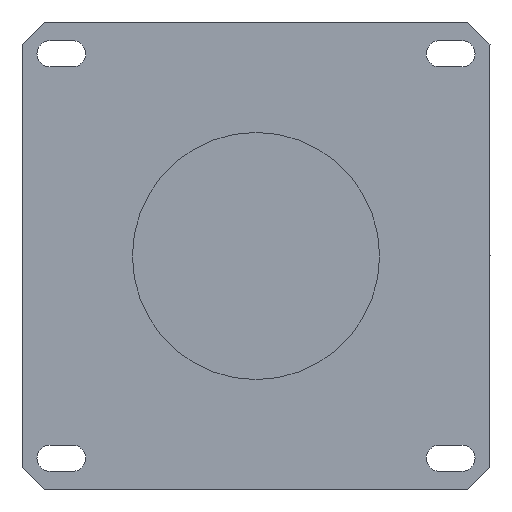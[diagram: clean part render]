
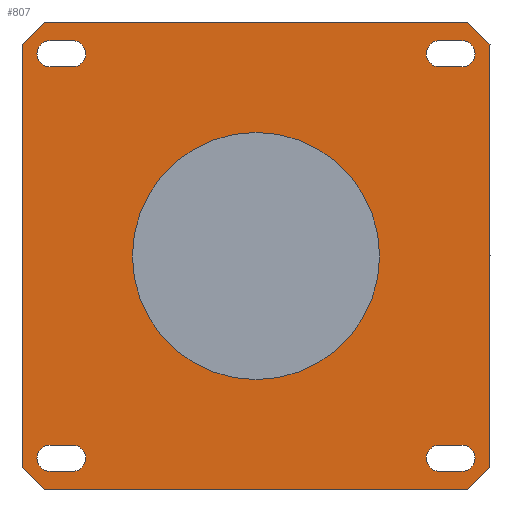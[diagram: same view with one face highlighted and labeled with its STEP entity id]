
A CAD part, front view. The second image highlights one B-rep face of the part: STEP entity #807.
In plain terms, the highlighted planar face has unit normal (0, -1, 0).
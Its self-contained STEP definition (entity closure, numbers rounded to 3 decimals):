
#438=FACE_BOUND('',#1325,.T.);
#439=FACE_BOUND('',#1326,.T.);
#440=FACE_BOUND('',#1327,.T.);
#441=FACE_BOUND('',#1328,.T.);
#442=FACE_BOUND('',#1329,.T.);
#443=FACE_BOUND('',#1330,.T.);
#619=CIRCLE('',#3356,33.);
#620=CIRCLE('',#3357,3.5);
#621=CIRCLE('',#3358,3.5);
#622=CIRCLE('',#3359,3.5);
#623=CIRCLE('',#3360,3.5);
#624=CIRCLE('',#3361,3.5);
#625=CIRCLE('',#3362,3.5);
#626=CIRCLE('',#3363,3.5);
#627=CIRCLE('',#3364,3.5);
#807=ADVANCED_FACE('',(#438,#439,#440,#441,#442,#443),#948,.F.);
#948=PLANE('',#3365);
#1325=EDGE_LOOP('',(#1903));
#1326=EDGE_LOOP('',(#1904,#1905,#1906,#1907));
#1327=EDGE_LOOP('',(#1908,#1909,#1910,#1911));
#1328=EDGE_LOOP('',(#1912,#1913,#1914,#1915));
#1329=EDGE_LOOP('',(#1916,#1917,#1918,#1919));
#1330=EDGE_LOOP('',(#1920,#1921,#1922,#1923,#1924,#1925,#1926,#1927));
#1903=ORIENTED_EDGE('',*,*,#2593,.T.);
#1904=ORIENTED_EDGE('',*,*,#2594,.T.);
#1905=ORIENTED_EDGE('',*,*,#2595,.T.);
#1906=ORIENTED_EDGE('',*,*,#2596,.T.);
#1907=ORIENTED_EDGE('',*,*,#2597,.T.);
#1908=ORIENTED_EDGE('',*,*,#2598,.T.);
#1909=ORIENTED_EDGE('',*,*,#2599,.T.);
#1910=ORIENTED_EDGE('',*,*,#2600,.T.);
#1911=ORIENTED_EDGE('',*,*,#2601,.T.);
#1912=ORIENTED_EDGE('',*,*,#2602,.T.);
#1913=ORIENTED_EDGE('',*,*,#2603,.T.);
#1914=ORIENTED_EDGE('',*,*,#2604,.T.);
#1915=ORIENTED_EDGE('',*,*,#2605,.T.);
#1916=ORIENTED_EDGE('',*,*,#2606,.T.);
#1917=ORIENTED_EDGE('',*,*,#2607,.T.);
#1918=ORIENTED_EDGE('',*,*,#2608,.T.);
#1919=ORIENTED_EDGE('',*,*,#2609,.T.);
#1920=ORIENTED_EDGE('',*,*,#2610,.F.);
#1921=ORIENTED_EDGE('',*,*,#2611,.F.);
#1922=ORIENTED_EDGE('',*,*,#2612,.F.);
#1923=ORIENTED_EDGE('',*,*,#2613,.F.);
#1924=ORIENTED_EDGE('',*,*,#2614,.F.);
#1925=ORIENTED_EDGE('',*,*,#2615,.F.);
#1926=ORIENTED_EDGE('',*,*,#2616,.F.);
#1927=ORIENTED_EDGE('',*,*,#2617,.F.);
#2273=VERTEX_POINT('',#4913);
#2274=VERTEX_POINT('',#4915);
#2275=VERTEX_POINT('',#4916);
#2276=VERTEX_POINT('',#4918);
#2277=VERTEX_POINT('',#4920);
#2278=VERTEX_POINT('',#4923);
#2279=VERTEX_POINT('',#4924);
#2280=VERTEX_POINT('',#4926);
#2281=VERTEX_POINT('',#4928);
#2282=VERTEX_POINT('',#4931);
#2283=VERTEX_POINT('',#4932);
#2284=VERTEX_POINT('',#4934);
#2285=VERTEX_POINT('',#4936);
#2286=VERTEX_POINT('',#4939);
#2287=VERTEX_POINT('',#4940);
#2288=VERTEX_POINT('',#4942);
#2289=VERTEX_POINT('',#4944);
#2290=VERTEX_POINT('',#4947);
#2291=VERTEX_POINT('',#4948);
#2292=VERTEX_POINT('',#4950);
#2293=VERTEX_POINT('',#4952);
#2294=VERTEX_POINT('',#4954);
#2295=VERTEX_POINT('',#4956);
#2296=VERTEX_POINT('',#4958);
#2297=VERTEX_POINT('',#4960);
#2593=EDGE_CURVE('',#2273,#2273,#619,.T.);
#2594=EDGE_CURVE('',#2274,#2275,#620,.T.);
#2595=EDGE_CURVE('',#2275,#2276,#2827,.T.);
#2596=EDGE_CURVE('',#2276,#2277,#621,.T.);
#2597=EDGE_CURVE('',#2277,#2274,#2828,.T.);
#2598=EDGE_CURVE('',#2278,#2279,#622,.T.);
#2599=EDGE_CURVE('',#2279,#2280,#2829,.T.);
#2600=EDGE_CURVE('',#2280,#2281,#623,.T.);
#2601=EDGE_CURVE('',#2281,#2278,#2830,.T.);
#2602=EDGE_CURVE('',#2282,#2283,#624,.T.);
#2603=EDGE_CURVE('',#2283,#2284,#2831,.T.);
#2604=EDGE_CURVE('',#2284,#2285,#625,.T.);
#2605=EDGE_CURVE('',#2285,#2282,#2832,.T.);
#2606=EDGE_CURVE('',#2286,#2287,#626,.T.);
#2607=EDGE_CURVE('',#2287,#2288,#2833,.T.);
#2608=EDGE_CURVE('',#2288,#2289,#627,.T.);
#2609=EDGE_CURVE('',#2289,#2286,#2834,.T.);
#2610=EDGE_CURVE('',#2290,#2291,#2835,.T.);
#2611=EDGE_CURVE('',#2292,#2290,#2836,.T.);
#2612=EDGE_CURVE('',#2293,#2292,#2837,.T.);
#2613=EDGE_CURVE('',#2294,#2293,#2838,.T.);
#2614=EDGE_CURVE('',#2295,#2294,#2839,.T.);
#2615=EDGE_CURVE('',#2296,#2295,#2840,.T.);
#2616=EDGE_CURVE('',#2297,#2296,#2841,.T.);
#2617=EDGE_CURVE('',#2291,#2297,#2842,.T.);
#2827=LINE('',#4917,#3035);
#2828=LINE('',#4921,#3036);
#2829=LINE('',#4925,#3037);
#2830=LINE('',#4929,#3038);
#2831=LINE('',#4933,#3039);
#2832=LINE('',#4937,#3040);
#2833=LINE('',#4941,#3041);
#2834=LINE('',#4945,#3042);
#2835=LINE('',#4946,#3043);
#2836=LINE('',#4949,#3044);
#2837=LINE('',#4951,#3045);
#2838=LINE('',#4953,#3046);
#2839=LINE('',#4955,#3047);
#2840=LINE('',#4957,#3048);
#2841=LINE('',#4959,#3049);
#2842=LINE('',#4961,#3050);
#3035=VECTOR('',#4107,1.);
#3036=VECTOR('',#4110,1.);
#3037=VECTOR('',#4113,1.);
#3038=VECTOR('',#4116,1.);
#3039=VECTOR('',#4119,1.);
#3040=VECTOR('',#4122,1.);
#3041=VECTOR('',#4125,1.);
#3042=VECTOR('',#4128,1.);
#3043=VECTOR('',#4129,1.);
#3044=VECTOR('',#4130,1.);
#3045=VECTOR('',#4131,1.);
#3046=VECTOR('',#4132,1.);
#3047=VECTOR('',#4133,1.);
#3048=VECTOR('',#4134,1.);
#3049=VECTOR('',#4135,1.);
#3050=VECTOR('',#4136,1.);
#3356=AXIS2_PLACEMENT_3D('',#4912,#4103,#4104);
#3357=AXIS2_PLACEMENT_3D('',#4914,#4105,#4106);
#3358=AXIS2_PLACEMENT_3D('',#4919,#4108,#4109);
#3359=AXIS2_PLACEMENT_3D('',#4922,#4111,#4112);
#3360=AXIS2_PLACEMENT_3D('',#4927,#4114,#4115);
#3361=AXIS2_PLACEMENT_3D('',#4930,#4117,#4118);
#3362=AXIS2_PLACEMENT_3D('',#4935,#4120,#4121);
#3363=AXIS2_PLACEMENT_3D('',#4938,#4123,#4124);
#3364=AXIS2_PLACEMENT_3D('',#4943,#4126,#4127);
#3365=AXIS2_PLACEMENT_3D('',#4962,#4137,#4138);
#4103=DIRECTION('',(0.,1.,0.));
#4104=DIRECTION('',(1.,0.,0.));
#4105=DIRECTION('',(0.,1.,0.));
#4106=DIRECTION('',(1.,0.,0.));
#4107=DIRECTION('',(1.,0.,0.));
#4108=DIRECTION('',(0.,1.,0.));
#4109=DIRECTION('',(1.,0.,0.));
#4110=DIRECTION('',(-1.,0.,0.));
#4111=DIRECTION('',(0.,1.,0.));
#4112=DIRECTION('',(1.,0.,0.));
#4113=DIRECTION('',(1.,0.,0.));
#4114=DIRECTION('',(0.,1.,0.));
#4115=DIRECTION('',(1.,0.,0.));
#4116=DIRECTION('',(-1.,0.,0.));
#4117=DIRECTION('',(0.,1.,0.));
#4118=DIRECTION('',(1.,0.,0.));
#4119=DIRECTION('',(1.,0.,0.));
#4120=DIRECTION('',(0.,1.,0.));
#4121=DIRECTION('',(1.,0.,0.));
#4122=DIRECTION('',(-1.,0.,0.));
#4123=DIRECTION('',(0.,1.,0.));
#4124=DIRECTION('',(1.,0.,0.));
#4125=DIRECTION('',(1.,0.,0.));
#4126=DIRECTION('',(0.,1.,0.));
#4127=DIRECTION('',(1.,0.,0.));
#4128=DIRECTION('',(-1.,0.,0.));
#4129=DIRECTION('',(0.,0.,1.));
#4130=DIRECTION('',(-0.707,0.,0.707));
#4131=DIRECTION('',(-1.,0.,0.));
#4132=DIRECTION('',(-0.707,0.,-0.707));
#4133=DIRECTION('',(0.,0.,-1.));
#4134=DIRECTION('',(0.707,0.,-0.707));
#4135=DIRECTION('',(1.,0.,0.));
#4136=DIRECTION('',(0.707,0.,0.707));
#4137=DIRECTION('',(0.,1.,0.));
#4138=DIRECTION('',(1.,0.,0.));
#4912=CARTESIAN_POINT('',(2276.039,-4878.292,0.));
#4913=CARTESIAN_POINT('',(2309.039,-4878.292,0.));
#4914=CARTESIAN_POINT('',(2221.039,-4878.292,-54.));
#4915=CARTESIAN_POINT('',(2221.039,-4878.292,-57.5));
#4916=CARTESIAN_POINT('',(2221.039,-4878.292,-50.5));
#4917=CARTESIAN_POINT('',(2221.039,-4878.292,-50.5));
#4918=CARTESIAN_POINT('',(2227.039,-4878.292,-50.5));
#4919=CARTESIAN_POINT('',(2227.039,-4878.292,-54.));
#4920=CARTESIAN_POINT('',(2227.039,-4878.292,-57.5));
#4921=CARTESIAN_POINT('',(2227.039,-4878.292,-57.5));
#4922=CARTESIAN_POINT('',(2221.039,-4878.292,54.));
#4923=CARTESIAN_POINT('',(2221.039,-4878.292,50.5));
#4924=CARTESIAN_POINT('',(2221.039,-4878.292,57.5));
#4925=CARTESIAN_POINT('',(2221.039,-4878.292,57.5));
#4926=CARTESIAN_POINT('',(2227.039,-4878.292,57.5));
#4927=CARTESIAN_POINT('',(2227.039,-4878.292,54.));
#4928=CARTESIAN_POINT('',(2227.039,-4878.292,50.5));
#4929=CARTESIAN_POINT('',(2227.039,-4878.292,50.5));
#4930=CARTESIAN_POINT('',(2325.039,-4878.292,-54.));
#4931=CARTESIAN_POINT('',(2325.039,-4878.292,-57.5));
#4932=CARTESIAN_POINT('',(2325.039,-4878.292,-50.5));
#4933=CARTESIAN_POINT('',(2325.039,-4878.292,-50.5));
#4934=CARTESIAN_POINT('',(2331.039,-4878.292,-50.5));
#4935=CARTESIAN_POINT('',(2331.039,-4878.292,-54.));
#4936=CARTESIAN_POINT('',(2331.039,-4878.292,-57.5));
#4937=CARTESIAN_POINT('',(2331.039,-4878.292,-57.5));
#4938=CARTESIAN_POINT('',(2325.039,-4878.292,54.));
#4939=CARTESIAN_POINT('',(2325.039,-4878.292,50.5));
#4940=CARTESIAN_POINT('',(2325.039,-4878.292,57.5));
#4941=CARTESIAN_POINT('',(2325.039,-4878.292,57.5));
#4942=CARTESIAN_POINT('',(2331.039,-4878.292,57.5));
#4943=CARTESIAN_POINT('',(2331.039,-4878.292,54.));
#4944=CARTESIAN_POINT('',(2331.039,-4878.292,50.5));
#4945=CARTESIAN_POINT('',(2331.039,-4878.292,50.5));
#4946=CARTESIAN_POINT('',(2213.539,-4878.292,-56.5));
#4947=CARTESIAN_POINT('',(2213.539,-4878.292,-56.5));
#4948=CARTESIAN_POINT('',(2213.539,-4878.292,56.5));
#4949=CARTESIAN_POINT('',(2219.539,-4878.292,-62.5));
#4950=CARTESIAN_POINT('',(2219.539,-4878.292,-62.5));
#4951=CARTESIAN_POINT('',(2332.539,-4878.292,-62.5));
#4952=CARTESIAN_POINT('',(2332.539,-4878.292,-62.5));
#4953=CARTESIAN_POINT('',(2338.539,-4878.292,-56.5));
#4954=CARTESIAN_POINT('',(2338.539,-4878.292,-56.5));
#4955=CARTESIAN_POINT('',(2338.539,-4878.292,56.5));
#4956=CARTESIAN_POINT('',(2338.539,-4878.292,56.5));
#4957=CARTESIAN_POINT('',(2332.539,-4878.292,62.5));
#4958=CARTESIAN_POINT('',(2332.539,-4878.292,62.5));
#4959=CARTESIAN_POINT('',(2219.539,-4878.292,62.5));
#4960=CARTESIAN_POINT('',(2219.539,-4878.292,62.5));
#4961=CARTESIAN_POINT('',(2213.539,-4878.292,56.5));
#4962=CARTESIAN_POINT('',(2325.039,-4878.292,54.));
